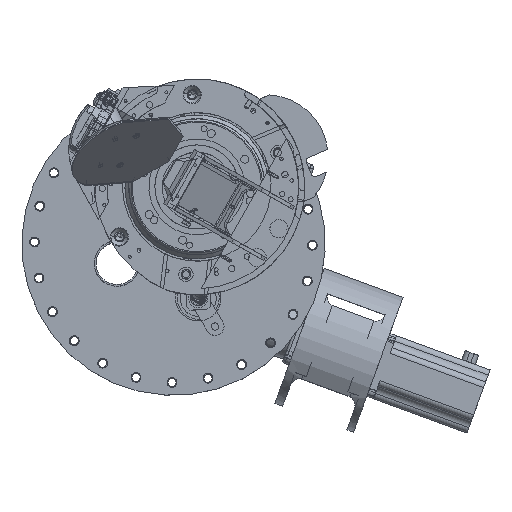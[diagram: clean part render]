
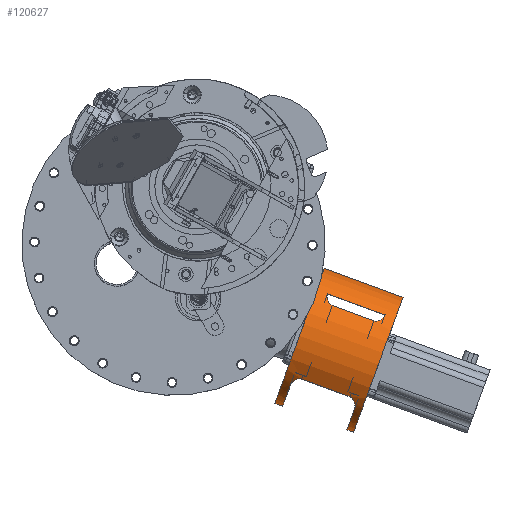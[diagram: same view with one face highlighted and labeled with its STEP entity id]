
A CAD part, top view. The second image highlights one B-rep face of the part: STEP entity #120627.
In plain terms, the highlighted cylindrical face has radius 60 mm (diameter 120 mm), a partial arc.
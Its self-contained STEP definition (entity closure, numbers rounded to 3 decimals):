
#118880=CARTESIAN_POINT('Axis2P3D Location',(151.434,-146.034,-1342.9)) ;
#118884=CARTESIAN_POINT('Vertex',(172.049,-89.687,-1342.9)) ;
#118886=CARTESIAN_POINT('Vertex',(130.818,-202.381,-1342.9)) ;
#119091=CARTESIAN_POINT('Vertex',(65.08,-178.33,-1342.9)) ;
#119093=CARTESIAN_POINT('Vertex',(106.311,-65.635,-1342.9)) ;
#119096=CARTESIAN_POINT('Axis2P3D Location',(85.695,-121.983,-1342.9)) ;
#120355=CARTESIAN_POINT('Vertex',(109.217,-86.931,-1299.094)) ;
#120359=CARTESIAN_POINT('Control Point',(113.056,-96.677,-1292.9)) ;
#120360=CARTESIAN_POINT('Control Point',(112.438,-96.45,-1292.9)) ;
#120361=CARTESIAN_POINT('Control Point',(111.859,-96.114,-1292.977)) ;
#120362=CARTESIAN_POINT('Control Point',(111.362,-95.685,-1293.132)) ;
#120363=CARTESIAN_POINT('Control Point',(110.643,-94.88,-1293.476)) ;
#120364=CARTESIAN_POINT('Control Point',(110.111,-93.994,-1293.932)) ;
#120365=CARTESIAN_POINT('Control Point',(109.92,-93.618,-1294.136)) ;
#120366=CARTESIAN_POINT('Control Point',(109.215,-92.012,-1295.052)) ;
#120367=CARTESIAN_POINT('Control Point',(108.92,-90.369,-1296.165)) ;
#120368=CARTESIAN_POINT('Control Point',(108.855,-89.161,-1297.082)) ;
#120369=CARTESIAN_POINT('Control Point',(108.952,-88.003,-1298.065)) ;
#120370=CARTESIAN_POINT('Control Point',(109.217,-86.931,-1299.094)) ;
#120371=CARTESIAN_POINT('Vertex',(113.056,-96.677,-1292.9)) ;
#120405=CARTESIAN_POINT('Vertex',(147.803,-109.389,-1292.9)) ;
#120409=CARTESIAN_POINT('Control Point',(147.803,-109.389,-1292.9)) ;
#120410=CARTESIAN_POINT('Control Point',(148.422,-109.616,-1292.9)) ;
#120411=CARTESIAN_POINT('Control Point',(149.08,-109.732,-1292.977)) ;
#120412=CARTESIAN_POINT('Control Point',(149.737,-109.725,-1293.132)) ;
#120413=CARTESIAN_POINT('Control Point',(150.806,-109.575,-1293.476)) ;
#120414=CARTESIAN_POINT('Control Point',(151.784,-109.24,-1293.932)) ;
#120415=CARTESIAN_POINT('Control Point',(152.173,-109.077,-1294.136)) ;
#120416=CARTESIAN_POINT('Control Point',(153.748,-108.305,-1295.052)) ;
#120417=CARTESIAN_POINT('Control Point',(155.034,-107.24,-1296.165)) ;
#120418=CARTESIAN_POINT('Control Point',(155.863,-106.359,-1297.082)) ;
#120419=CARTESIAN_POINT('Control Point',(156.536,-105.413,-1298.065)) ;
#120420=CARTESIAN_POINT('Control Point',(157.025,-104.422,-1299.094)) ;
#120421=CARTESIAN_POINT('Vertex',(157.025,-104.422,-1299.094)) ;
#120444=CARTESIAN_POINT('Axis2P3D Location',(118.564,-134.008,-1342.9)) ;
#120449=CARTESIAN_POINT('Line Origine',(97.949,-190.355,-1342.9)) ;
#120453=CARTESIAN_POINT('Vertex',(71.654,-180.735,-1342.9)) ;
#120456=CARTESIAN_POINT('Line Origine',(139.18,-77.661,-1342.9)) ;
#120461=CARTESIAN_POINT('Line Origine',(97.949,-190.355,-1342.9)) ;
#120465=CARTESIAN_POINT('Vertex',(125.183,-200.32,-1342.9)) ;
#120548=CARTESIAN_POINT('Axis2P3D Location',(92.269,-124.388,-1342.9)) ;
#120552=CARTESIAN_POINT('Vertex',(77.891,-163.685,-1299.9)) ;
#120556=CARTESIAN_POINT('Control Point',(87.447,-157.94,-1292.9)) ;
#120557=CARTESIAN_POINT('Control Point',(86.829,-157.714,-1292.9)) ;
#120558=CARTESIAN_POINT('Control Point',(86.17,-157.597,-1292.977)) ;
#120559=CARTESIAN_POINT('Control Point',(85.514,-157.604,-1293.132)) ;
#120560=CARTESIAN_POINT('Control Point',(83.88,-157.835,-1293.658)) ;
#120561=CARTESIAN_POINT('Control Point',(82.459,-158.493,-1294.444)) ;
#120562=CARTESIAN_POINT('Control Point',(81.675,-158.978,-1294.98)) ;
#120563=CARTESIAN_POINT('Control Point',(80.201,-160.111,-1296.191)) ;
#120564=CARTESIAN_POINT('Control Point',(79.068,-161.437,-1297.567)) ;
#120565=CARTESIAN_POINT('Control Point',(78.571,-162.16,-1298.317)) ;
#120566=CARTESIAN_POINT('Control Point',(78.174,-162.912,-1299.099)) ;
#120567=CARTESIAN_POINT('Control Point',(77.891,-163.685,-1299.9)) ;
#120568=CARTESIAN_POINT('Vertex',(87.447,-157.94,-1292.9)) ;
#120571=CARTESIAN_POINT('Line Origine',(107.169,-165.155,-1292.9)) ;
#120575=CARTESIAN_POINT('Vertex',(127.829,-172.714,-1292.9)) ;
#120579=CARTESIAN_POINT('Control Point',(127.829,-172.714,-1292.9)) ;
#120580=CARTESIAN_POINT('Control Point',(128.448,-172.941,-1292.9)) ;
#120581=CARTESIAN_POINT('Control Point',(129.026,-173.277,-1292.977)) ;
#120582=CARTESIAN_POINT('Control Point',(129.523,-173.706,-1293.132)) ;
#120583=CARTESIAN_POINT('Control Point',(130.623,-174.936,-1293.658)) ;
#120584=CARTESIAN_POINT('Control Point',(131.283,-176.356,-1294.444)) ;
#120585=CARTESIAN_POINT('Control Point',(131.569,-177.232,-1294.98)) ;
#120586=CARTESIAN_POINT('Control Point',(131.963,-179.049,-1296.191)) ;
#120587=CARTESIAN_POINT('Control Point',(131.973,-180.793,-1297.567)) ;
#120588=CARTESIAN_POINT('Control Point',(131.886,-181.666,-1298.317)) ;
#120589=CARTESIAN_POINT('Control Point',(131.704,-182.497,-1299.099)) ;
#120590=CARTESIAN_POINT('Control Point',(131.421,-183.27,-1299.9)) ;
#120591=CARTESIAN_POINT('Vertex',(131.421,-183.27,-1299.9)) ;
#120594=CARTESIAN_POINT('Axis2P3D Location',(145.799,-143.972,-1342.9)) ;
#120611=CARTESIAN_POINT('Line Origine',(129.96,-102.861,-1292.9)) ;
#120616=CARTESIAN_POINT('Line Origine',(132.652,-95.504,-1299.094)) ;
#120451=VECTOR('Line Direction',#120450,1.) ;
#120458=VECTOR('Line Direction',#120457,1.) ;
#120463=VECTOR('Line Direction',#120462,1.) ;
#120573=VECTOR('Line Direction',#120572,1.) ;
#120613=VECTOR('Line Direction',#120612,1.) ;
#120618=VECTOR('Line Direction',#120617,1.) ;
#118881=DIRECTION('Axis2P3D Direction',(0.939,-0.344,0.)) ;
#119097=DIRECTION('Axis2P3D Direction',(0.939,-0.344,0.)) ;
#120445=DIRECTION('Axis2P3D Direction',(0.939,-0.344,0.)) ;
#120446=DIRECTION('Axis2P3D XDirection',(0.344,0.939,0.)) ;
#120450=DIRECTION('Vector Direction',(0.939,-0.344,0.)) ;
#120457=DIRECTION('Vector Direction',(0.939,-0.344,0.)) ;
#120462=DIRECTION('Vector Direction',(0.939,-0.344,0.)) ;
#120549=DIRECTION('Axis2P3D Direction',(0.939,-0.344,0.)) ;
#120572=DIRECTION('Vector Direction',(0.939,-0.344,0.)) ;
#120595=DIRECTION('Axis2P3D Direction',(0.939,-0.344,0.)) ;
#120612=DIRECTION('Vector Direction',(0.939,-0.344,0.)) ;
#120617=DIRECTION('Vector Direction',(0.939,-0.344,0.)) ;
#118882=AXIS2_PLACEMENT_3D('Circle Axis2P3D',#118880,#118881,$) ;
#119098=AXIS2_PLACEMENT_3D('Circle Axis2P3D',#119096,#119097,$) ;
#120447=AXIS2_PLACEMENT_3D('Cylinder Axis2P3D',#120444,#120445,#120446) ;
#120550=AXIS2_PLACEMENT_3D('Circle Axis2P3D',#120548,#120549,$) ;
#120596=AXIS2_PLACEMENT_3D('Circle Axis2P3D',#120594,#120595,$) ;
#120452=LINE('Line',#120449,#120451) ;
#120459=LINE('Line',#120456,#120458) ;
#120464=LINE('Line',#120461,#120463) ;
#120574=LINE('Line',#120571,#120573) ;
#120614=LINE('Line',#120611,#120613) ;
#120619=LINE('Line',#120616,#120618) ;
#118883=CIRCLE('generated circle',#118882,60.) ;
#119099=CIRCLE('generated circle',#119098,60.) ;
#120551=CIRCLE('generated circle',#120550,60.) ;
#120597=CIRCLE('generated circle',#120596,60.) ;
#120448=CYLINDRICAL_SURFACE('generated cylinder',#120447,60.) ;
#120626=FACE_BOUND('',#120621,.T.) ;
#118888=EDGE_CURVE('',#118885,#118887,#118883,.T.) ;
#119100=EDGE_CURVE('',#119094,#119092,#119099,.T.) ;
#120373=EDGE_CURVE('',#120372,#120356,#120358,.T.) ;
#120423=EDGE_CURVE('',#120422,#120406,#120408,.F.) ;
#120455=EDGE_CURVE('',#119092,#120454,#120452,.T.) ;
#120460=EDGE_CURVE('',#119094,#118885,#120459,.T.) ;
#120467=EDGE_CURVE('',#120466,#118887,#120464,.T.) ;
#120554=EDGE_CURVE('',#120553,#120454,#120551,.T.) ;
#120570=EDGE_CURVE('',#120569,#120553,#120555,.T.) ;
#120577=EDGE_CURVE('',#120569,#120576,#120574,.T.) ;
#120593=EDGE_CURVE('',#120576,#120592,#120578,.T.) ;
#120598=EDGE_CURVE('',#120466,#120592,#120597,.F.) ;
#120615=EDGE_CURVE('',#120372,#120406,#120614,.T.) ;
#120620=EDGE_CURVE('',#120356,#120422,#120619,.T.) ;
#120600=ORIENTED_EDGE('',*,*,#120467,.T.) ;
#120601=ORIENTED_EDGE('',*,*,#118888,.F.) ;
#120602=ORIENTED_EDGE('',*,*,#120460,.F.) ;
#120603=ORIENTED_EDGE('',*,*,#119100,.T.) ;
#120604=ORIENTED_EDGE('',*,*,#120455,.T.) ;
#120605=ORIENTED_EDGE('',*,*,#120554,.F.) ;
#120606=ORIENTED_EDGE('',*,*,#120570,.F.) ;
#120607=ORIENTED_EDGE('',*,*,#120577,.T.) ;
#120608=ORIENTED_EDGE('',*,*,#120593,.T.) ;
#120609=ORIENTED_EDGE('',*,*,#120598,.F.) ;
#120622=ORIENTED_EDGE('',*,*,#120423,.T.) ;
#120623=ORIENTED_EDGE('',*,*,#120615,.F.) ;
#120624=ORIENTED_EDGE('',*,*,#120373,.T.) ;
#120625=ORIENTED_EDGE('',*,*,#120620,.T.) ;
#120599=EDGE_LOOP('',(#120600,#120601,#120602,#120603,#120604,#120605,#120606,#120607,#120608,#120609)) ;
#120621=EDGE_LOOP('',(#120622,#120623,#120624,#120625)) ;
#118885=VERTEX_POINT('',#118884) ;
#118887=VERTEX_POINT('',#118886) ;
#119092=VERTEX_POINT('',#119091) ;
#119094=VERTEX_POINT('',#119093) ;
#120356=VERTEX_POINT('',#120355) ;
#120372=VERTEX_POINT('',#120371) ;
#120406=VERTEX_POINT('',#120405) ;
#120422=VERTEX_POINT('',#120421) ;
#120454=VERTEX_POINT('',#120453) ;
#120466=VERTEX_POINT('',#120465) ;
#120553=VERTEX_POINT('',#120552) ;
#120569=VERTEX_POINT('',#120568) ;
#120576=VERTEX_POINT('',#120575) ;
#120592=VERTEX_POINT('',#120591) ;
#120627=ADVANCED_FACE('NEUES_GETRIEBE.1\\BREMSENADAPTER.1\\PartBody',(#120610,#120626),#120448,.T.) ;
#120358=B_SPLINE_CURVE_WITH_KNOTS('',5,(#120359,#120360,#120361,#120362,#120363,#120364,#120365,#120366,#120367,#120368,#120369,#120370),.UNSPECIFIED.,.F.,.U.,(6,3,3,6),(0.,4.656,7.957,18.63),.UNSPECIFIED.) ;
#120408=B_SPLINE_CURVE_WITH_KNOTS('',5,(#120409,#120410,#120411,#120412,#120413,#120414,#120415,#120416,#120417,#120418,#120419,#120420),.UNSPECIFIED.,.F.,.U.,(6,3,3,6),(0.,4.656,7.957,18.63),.UNSPECIFIED.) ;
#120555=B_SPLINE_CURVE_WITH_KNOTS('',5,(#120556,#120557,#120558,#120559,#120560,#120561,#120562,#120563,#120564,#120565,#120566,#120567),.UNSPECIFIED.,.F.,.U.,(6,3,3,6),(0.,4.656,12.161,20.284),.UNSPECIFIED.) ;
#120578=B_SPLINE_CURVE_WITH_KNOTS('',5,(#120579,#120580,#120581,#120582,#120583,#120584,#120585,#120586,#120587,#120588,#120589,#120590),.UNSPECIFIED.,.F.,.U.,(6,3,3,6),(0.,4.656,12.161,20.284),.UNSPECIFIED.) ;
#120610=FACE_OUTER_BOUND('',#120599,.T.) ;
